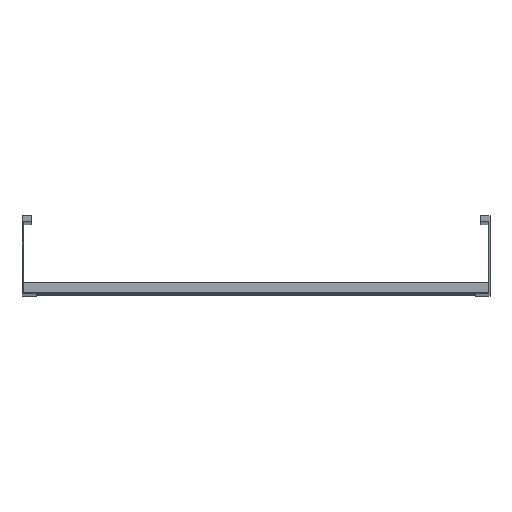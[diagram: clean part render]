
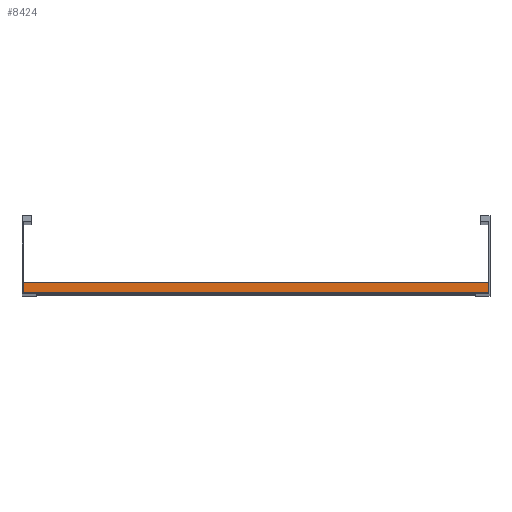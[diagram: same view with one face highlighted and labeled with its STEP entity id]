
A CAD part, top view. The second image highlights one B-rep face of the part: STEP entity #8424.
In plain terms, the highlighted planar face has unit normal (0, 0, 1).
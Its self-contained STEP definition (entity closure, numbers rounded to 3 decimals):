
#95 = CARTESIAN_POINT ( 'NONE',  ( -448., 0., 20.25 ) ) ;
#146 = DIRECTION ( 'NONE',  ( 0., -1., 0. ) ) ;
#781 = EDGE_CURVE ( 'NONE', #999, #2196, #3830, .T. ) ;
#853 = ORIENTED_EDGE ( 'NONE', *, *, #4876, .F. ) ;
#999 = VERTEX_POINT ( 'NONE', #2672 ) ;
#1914 = PLANE ( 'NONE',  #9480 ) ;
#2017 = FACE_OUTER_BOUND ( 'NONE', #6448, .T. ) ;
#2196 = VERTEX_POINT ( 'NONE', #11036 ) ;
#2626 = VECTOR ( 'NONE', #146, 1000. ) ;
#2672 = CARTESIAN_POINT ( 'NONE',  ( 448., 20., 20.25 ) ) ;
#3692 = DIRECTION ( 'NONE',  ( -1., 0., 0. ) ) ;
#3830 = LINE ( 'NONE', #4654, #10530 ) ;
#4654 = CARTESIAN_POINT ( 'NONE',  ( 448., 20., 20.25 ) ) ;
#4812 = EDGE_CURVE ( 'NONE', #7106, #4853, #9589, .T. ) ;
#4853 = VERTEX_POINT ( 'NONE', #95 ) ;
#4876 = EDGE_CURVE ( 'NONE', #2196, #4853, #6157, .T. ) ;
#5196 = VECTOR ( 'NONE', #3692, 1000. ) ;
#5371 = EDGE_CURVE ( 'NONE', #999, #7106, #6534, .T. ) ;
#5391 = CARTESIAN_POINT ( 'NONE',  ( 448., 0., 20.25 ) ) ;
#5461 = DIRECTION ( 'NONE',  ( 0., 1., 0. ) ) ;
#6087 = CARTESIAN_POINT ( 'NONE',  ( -448., 20., 20.25 ) ) ;
#6157 = LINE ( 'NONE', #5391, #5196 ) ;
#6448 = EDGE_LOOP ( 'NONE', ( #7004, #853, #8420, #6920 ) ) ;
#6534 = LINE ( 'NONE', #8220, #8910 ) ;
#6920 = ORIENTED_EDGE ( 'NONE', *, *, #5371, .T. ) ;
#7004 = ORIENTED_EDGE ( 'NONE', *, *, #4812, .T. ) ;
#7106 = VERTEX_POINT ( 'NONE', #9247 ) ;
#8220 = CARTESIAN_POINT ( 'NONE',  ( 448., 20., 20.25 ) ) ;
#8420 = ORIENTED_EDGE ( 'NONE', *, *, #781, .F. ) ;
#8424 = ADVANCED_FACE ( 'NONE', ( #2017 ), #1914, .F. ) ;
#8910 = VECTOR ( 'NONE', #10150, 1000. ) ;
#9173 = DIRECTION ( 'NONE',  ( 0., 0., -1. ) ) ;
#9247 = CARTESIAN_POINT ( 'NONE',  ( -448., 20., 20.25 ) ) ;
#9480 = AXIS2_PLACEMENT_3D ( 'NONE', #9886, #9173, #5461 ) ;
#9589 = LINE ( 'NONE', #6087, #2626 ) ;
#9886 = CARTESIAN_POINT ( 'NONE',  ( 448., 20., 20.25 ) ) ;
#10150 = DIRECTION ( 'NONE',  ( -1., 0., 0. ) ) ;
#10530 = VECTOR ( 'NONE', #10998, 1000. ) ;
#10998 = DIRECTION ( 'NONE',  ( 0., -1., 0. ) ) ;
#11036 = CARTESIAN_POINT ( 'NONE',  ( 448., 0., 20.25 ) ) ;
